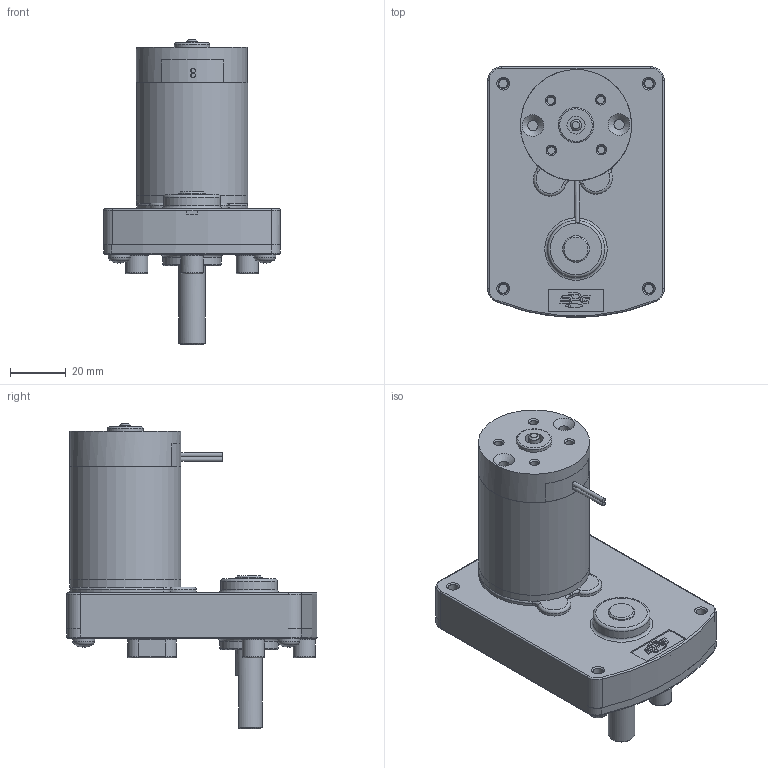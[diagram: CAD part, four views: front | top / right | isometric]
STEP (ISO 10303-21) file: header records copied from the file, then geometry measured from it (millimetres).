
FILE_DESCRIPTION(/* description */ (''),/* implementation_level */ '2;1');
FILE_NAME(/* name */ 'C:\Users\byjeong\Desktop\3D도면\SR43L.stp',/* time_stamp */ '2015-03-31T14:56:26+09:00',/* author */ ('byjeong'),/* organization */ (''),/* preprocessor_version */ 'ST-DEVELOPER v15.6',/* originating_system */ 'Autodesk Inventor 2015',/* authorisation */ '');
FILE_SCHEMA (('AUTOMOTIVE_DESIGN { 1 0 10303 214 3 1 1 }'));
Length unit declared in the file: millimetre
Products named in the file (9): SR BOX ASSY; RM4TYPE_FRONT_HOUSING_; RM4TYPE_PIPE_HOUSING_pi40XL40.8; RM43TYPE_SHAFT; RM4TYPE_BRUSH_BRAKET_LEAD; RM4TYPE_REAR_HOUSING; REAR_HOUSING__ASS'Y_LEAD; RM43ㅁBL; 조립품2
Bounding box: 63.5 x 90.14 x 109.77 mm (x, y, z)
Volume: 68291.4 mm3; surface area: 56178.3 mm2
Topology: 9 solids, 18 shells, 547 faces, 1313 edges, 835 vertices
Faces by surface type: plane 233, cylinder 153, cone 96, torus 60, sphere 4, bspline 1
Full cylindrical faces by diameter (mm): 1.6 x2, 2.5 x1, 2.7 x4, 2.8 x4, 3 x3, 3.4 x7, 3.571 x4, 3.6 x6, 3.7 x2, 3.969 x1, 4 x8, 4.4 x6, 4.45 x1, 5 x1, 6.5 x1, 6.65 x1, 8 x3, 9.525 x2, 9.528 x1, 9.565 x2, 12.7 x3, 14.3 x3, 16.6 x1, 17.6 x1, 20.5 x1, 21 x1, 23 x1, 36.5 x1, 40 x3
Entity records: 15863 total; most frequent: CARTESIAN_POINT 3610, DIRECTION 2640, ORIENTED_EDGE 2252, EDGE_CURVE 1121, AXIS2_PLACEMENT_3D 1096, VERTEX_POINT 796, EDGE_LOOP 778, FACE_OUTER_BOUND 547
